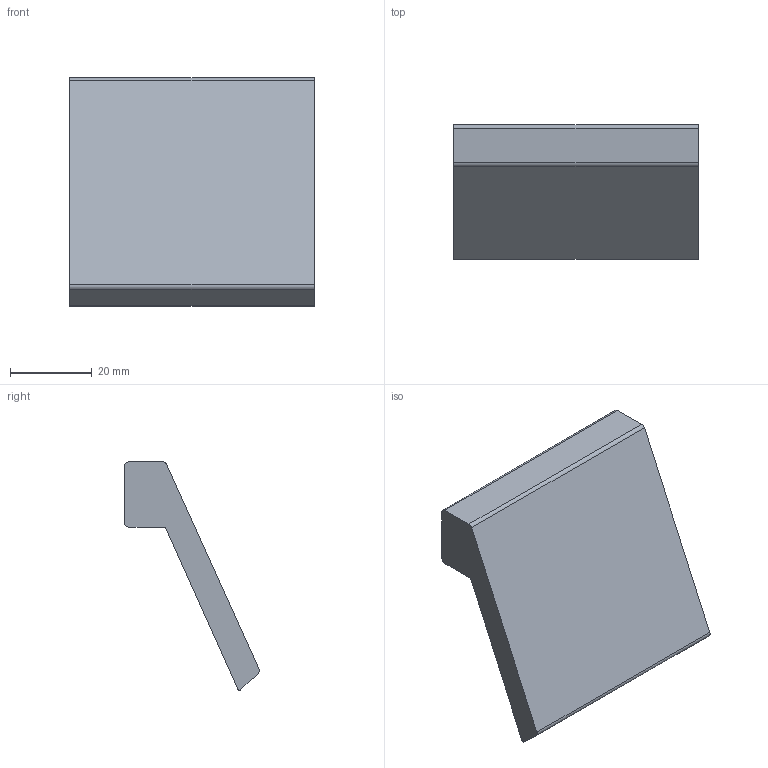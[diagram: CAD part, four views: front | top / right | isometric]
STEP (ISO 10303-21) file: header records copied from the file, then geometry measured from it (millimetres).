
FILE_DESCRIPTION( ( '' ), '1' );
FILE_NAME( 'D:/1.AUTOCAD EXPORT/Group 10/sheet_10_1/9105798.stp', '2013-10-17T06:04:02', ( '' ), ( '' ), ' ', ' ', ' ' );
FILE_SCHEMA( ( 'automotive_design' ) );
Length unit declared in the file: millimetre
Products named in the file (1): 1
Bounding box: 60 x 33 x 56 mm (x, y, z)
Volume: 29575.5 mm3; surface area: 9709.1 mm2
Topology: 1 solids, 1 shells, 20 faces, 48 edges, 32 vertices
Faces by surface type: cylinder 10, plane 10
Entity records: 1176 total; most frequent: DIRECTION 110, STYLED_ITEM 101, PRESENTATION_STYLE_ASSIGNMENT 101, CARTESIAN_POINT 101, COLOUR_RGB 101, ORIENTED_EDGE 96, EDGE_CURVE 48, CURVE_STYLE 48
